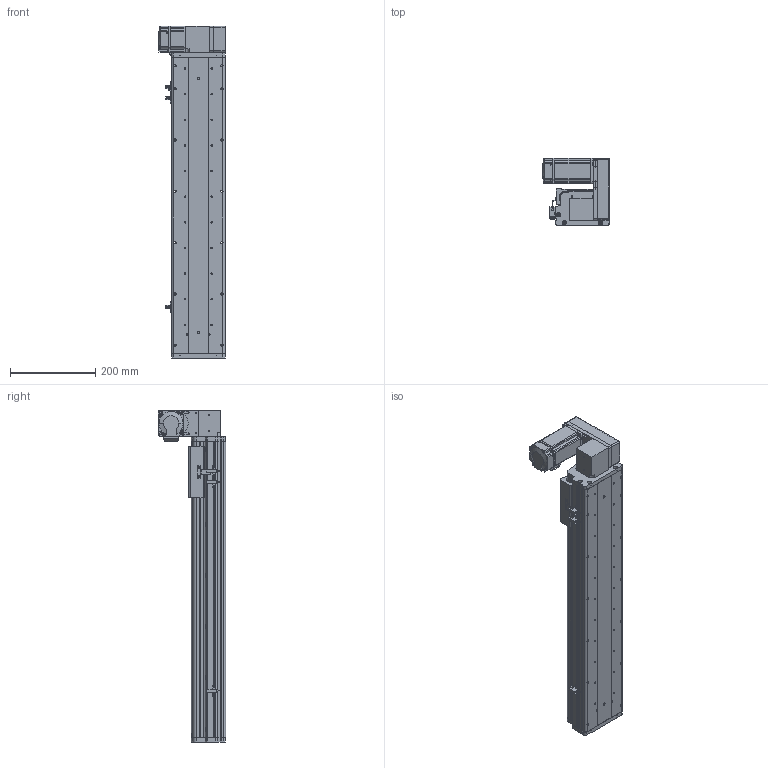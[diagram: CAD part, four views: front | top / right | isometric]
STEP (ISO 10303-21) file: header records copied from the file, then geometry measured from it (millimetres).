
FILE_DESCRIPTION (( 'STEP AP214' ), '1' );
FILE_NAME ('KSD125B-S500-MLU-CM.STEP', '2017-10-21T03:16:01', ( '微软用户' ), ( '微软中国' ), 'SwSTEP 2.0', 'SolidWorks 2014', '' );
FILE_SCHEMA (( 'AUTOMOTIVE_DESIGN' ));
Length unit declared in the file: millimetre
Products named in the file (17): MHMD042G1CA_2_03; 100宽马达安装板同步带左; KSD125模组同步带-防撞垫2; 覜茼え68遵圉猾敕; U倰嫖萇假蚾璃; U倰嫖萇EEㄜSX672; KSD125模组同步带-防撞垫1; 前端板-125宽模组同步带; 125模组同步带-尾端板1; KSD125模组500行程同步带-防尘盖; KSD125模组同步带-滑动座1; 125模组500行程同步带-底板; KSD125B-S500-MLU-CM; 悵誘欶奻狟殏; 100宽马达安装板连板上下折丝杆同步带; HTPA30S3M150_A_H6_a佪裝蚚; HTPA30S3M150_A_H6_a萇儂蚚
Assembly tree (20 placements, depth 2):
  KSD125B-S500-MLU-CM
    125模组500行程同步带-底板
    KSD125模组同步带-滑动座1
    KSD125模组500行程同步带-防尘盖
    125模组同步带-尾端板1
    前端板-125宽模组同步带
    KSD125模组同步带-防撞垫1
    U倰嫖萇EEㄜSX672  x3
    U倰嫖萇假蚾璃  x3
    覜茼え68遵圉猾敕
    KSD125模组同步带-防撞垫2
    100宽马达安装板同步带左
    MHMD042G1CA_2_03
    HTPA30S3M150_A_H6_a萇儂蚚
    HTPA30S3M150_A_H6_a佪裝蚚
    100宽马达安装板连板上下折丝杆同步带
    悵誘欶奻狟殏
Bounding box: 155 x 157.5 x 777 mm (x, y, z)
Volume: 2588753.5 mm3; surface area: 901260.6 mm2
Topology: 19 solids, 22 shells, 2249 faces, 6511 edges, 4302 vertices
Faces by surface type: cylinder 1400, plane 722, cone 105, bspline 22
Entity records: 79709 total; most frequent: CARTESIAN_POINT 15777, DIRECTION 12400, ORIENTED_EDGE 11542, EDGE_CURVE 5849, AXIS2_PLACEMENT_3D 4785, VERTEX_POINT 3894, VECTOR 2830, LINE 2830
